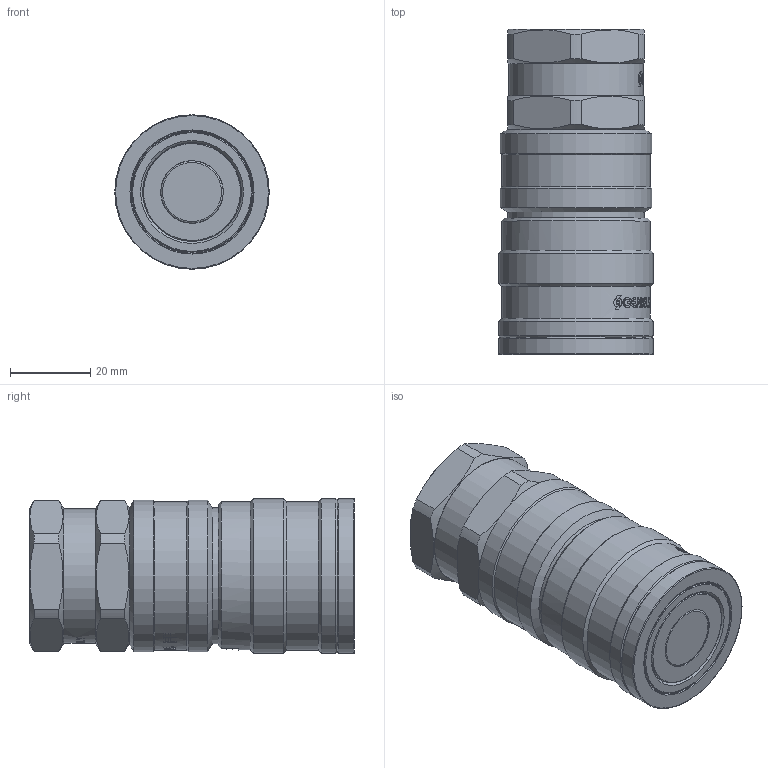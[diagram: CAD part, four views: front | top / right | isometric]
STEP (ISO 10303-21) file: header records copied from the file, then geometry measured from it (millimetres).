
FILE_DESCRIPTION(/* description */ (''),/* implementation_level */ '2;1');
FILE_NAME(/* name */ 'NC06G030003.stp',/* time_stamp */ '2026-03-18T09:30:20+01:00',/* author */ ('matteo.pellegrinelli'),/* organization */ (''),/* preprocessor_version */ 'ST-DEVELOPER v20',/* originating_system */ 'Autodesk Inventor 2024',/* authorisation */ '');
FILE_SCHEMA (('CONFIG_CONTROL_DESIGN'));
Products named in the file (1): Parte1
Bounding box: 38.5 x 81 x 38.5 mm (x, y, z)
Volume: 80104 mm3; surface area: 18911.2 mm2
Topology: 1 solids, 1 shells, 1526 faces, 4346 edges, 2890 vertices
Faces by surface type: bspline 1000, plane 386, cylinder 109, cone 22, torus 9
Full cylindrical faces by diameter (mm): 15.55 x1, 15.6 x1, 18.631 x1, 24.55 x1, 24.65 x1, 30 x1, 30.55 x1, 33 x4, 33.5 x1, 33.9 x2, 34.1 x1, 37 x3, 37.7 x2, 38.5 x3
Entity records: 65719 total; most frequent: CARTESIAN_POINT 31006, ORIENTED_EDGE 8692, EDGE_CURVE 4346, DIRECTION 3833, VERTEX_POINT 2890, B_SPLINE_CURVE_WITH_KNOTS 2089, LINE 1683, VECTOR 1683
